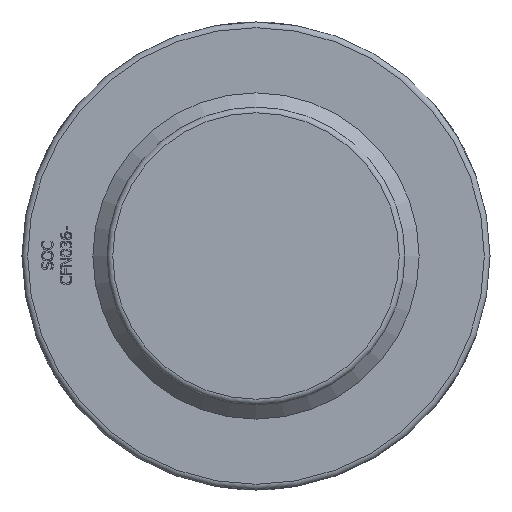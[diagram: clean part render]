
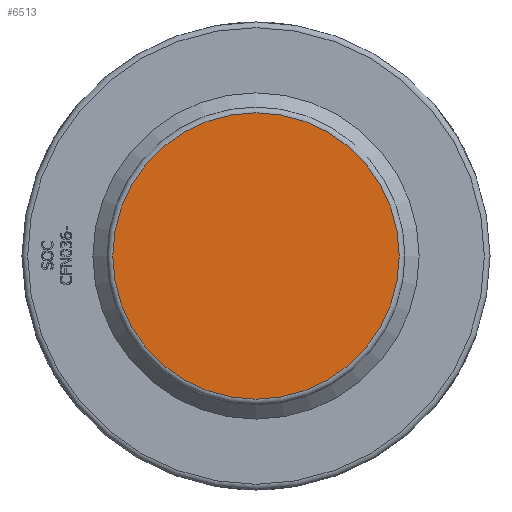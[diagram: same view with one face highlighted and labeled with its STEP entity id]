
A CAD part, front view. The second image highlights one B-rep face of the part: STEP entity #6513.
In plain terms, the highlighted planar face has unit normal (0, -1, 0) as drawn and (0, 1, 0) by its records, which use the part's own axes.
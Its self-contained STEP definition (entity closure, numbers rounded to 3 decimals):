
#51=CIRCLE('',#6824,50.5);
#181=PLANE('',#6826);
#417=FACE_OUTER_BOUND('',#801,.T.);
#801=EDGE_LOOP('',(#5099));
#2820=VERTEX_POINT('',#10204);
#3645=EDGE_CURVE('',#2820,#2820,#51,.T.);
#5099=ORIENTED_EDGE('',*,*,#3645,.F.);
#6513=ADVANCED_FACE('',(#417),#181,.T.);
#6824=AXIS2_PLACEMENT_3D('',#10205,#7312,#7313);
#6826=AXIS2_PLACEMENT_3D('',#10208,#7316,#7317);
#7312=DIRECTION('center_axis',(0.,-1.,0.));
#7313=DIRECTION('ref_axis',(-1.,0.,0.));
#7316=DIRECTION('center_axis',(0.,1.,0.));
#7317=DIRECTION('ref_axis',(0.,0.,1.));
#10204=CARTESIAN_POINT('',(50.5,94.5,0.));
#10205=CARTESIAN_POINT('Origin',(0.,94.5,0.));
#10208=CARTESIAN_POINT('Origin',(52.5,94.5,0.));
